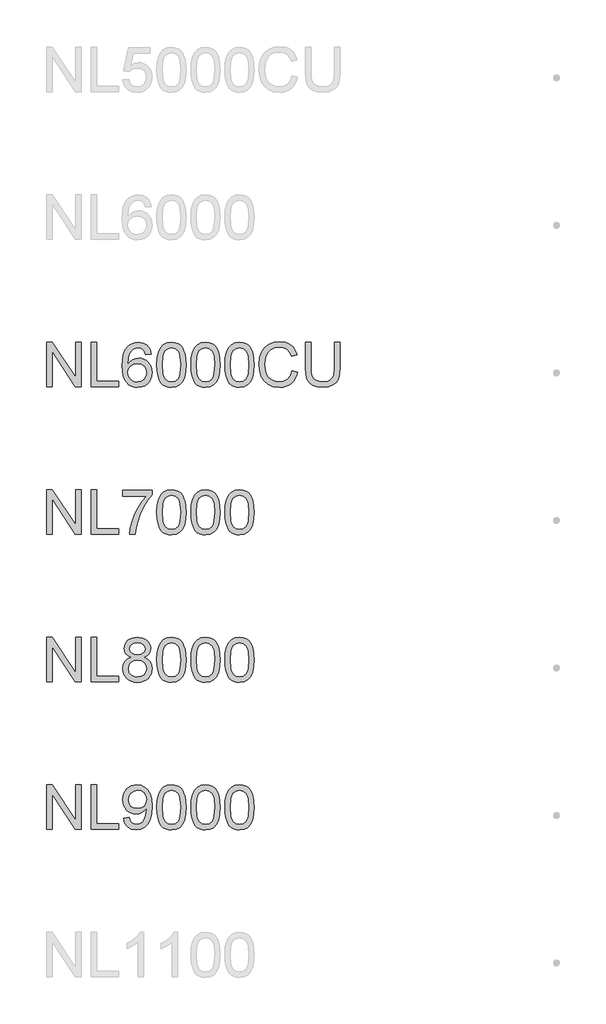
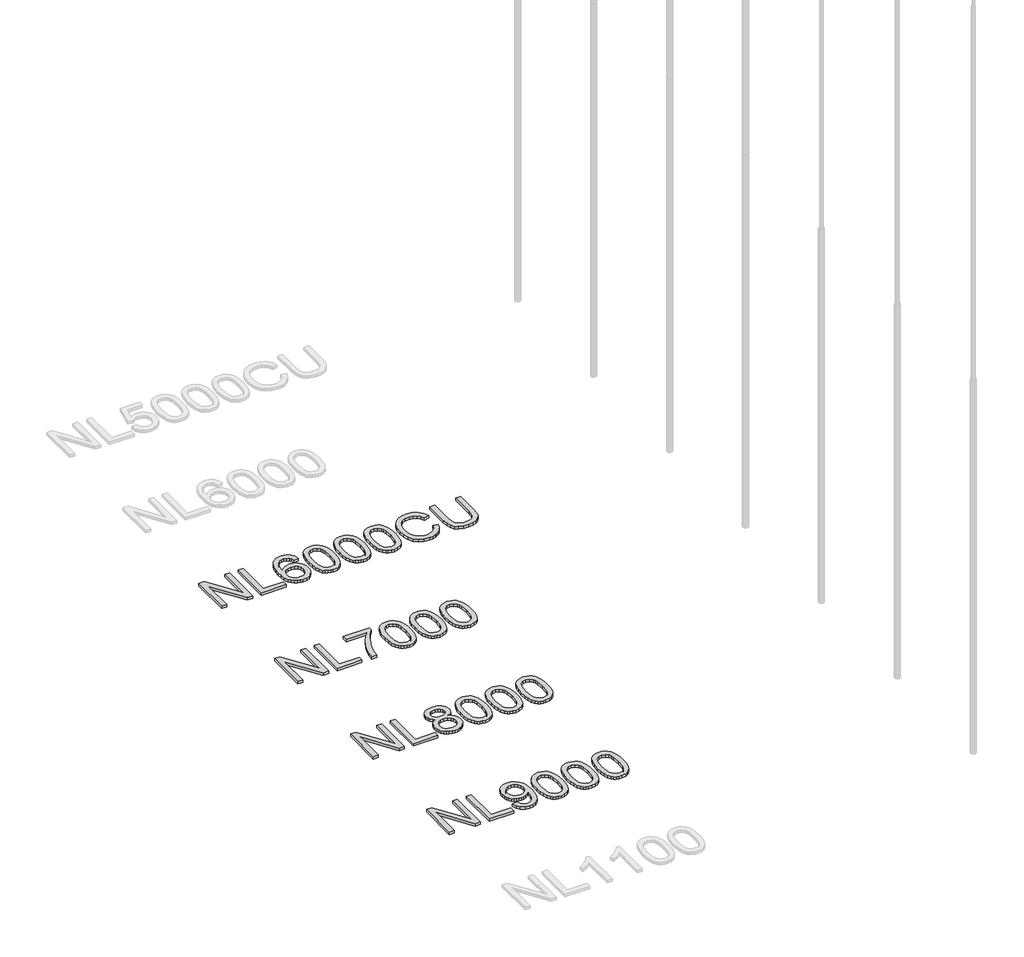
# One storey, part 37 of 124: 4 proxies.
"""IFC4 building model written with IfcOpenShell, lengths in millimetres."""

from ifc_helpers import new_model, si_unit, origin, origin_with_axes, place, context, project, spatial, polyline, outline, extrude, element, save

model = new_model("IFC4")

# Units and contexts
model_context = context("Model", 3, world=origin())
ifc_project = project(units=[si_unit("LENGTHUNIT", "METRE", prefix="MILLI")], contexts=[model_context])

# Site, building, storey
site = spatial("IfcSite", under=ifc_project)
building = spatial("IfcBuilding", under=site)
storey = spatial("IfcBuildingStorey", under=building, Name="Этаж 01", Elevation=0.0)

# Proxies
placement = place(None, origin())
element("IfcBuildingElementProxy", 1, Name="300", ObjectType="300", at=placement, inside=storey, context=model_context, shape_type="SweptSolid", body=[
    extrude(outline(polyline([(1299.8220677, -73074.498362), (1299.8220677, -72773.1294316), (1340.1419344, -72773.1294316), (1497.5954283, -73011.8848464), (1497.5954283, -72773.1294316), (1535.2665446, -72773.1294316), (1535.2665446, -73074.498362), (1494.9466779, -73074.498362), (1337.493184, -72835.6693707), (1337.493184, -73074.498362), (1299.8220677, -73074.498362)])), origin_with_axes(), (0.0, 0.0, 1.0), 20.0),
    extrude(outline(polyline([(1601.1909981, -73074.498362), (1601.1909981, -72773.1294316), (1638.8621144, -72773.1294316), (1638.8621144, -73036.8272457), (1789.5465797, -73036.8272457), (1789.5465797, -73074.498362), (1601.1909981, -73074.498362)])), origin_with_axes(), (0.0, 0.0, 1.0), 20.0),
    extrude(outline(polyline([(2010.864388, -72853.1805537), (1973.1932717, -72857.8894432), (1967.1232187, -72839.219432), (1958.9194503, -72826.4723209), (1941.8313316, -72814.7184911), (1921.1747575, -72810.8005479), (1903.6635746, -72813.0814162), (1887.1824612, -72819.9240213), (1873.0282014, -72834.3357985), (1861.4675097, -72854.1738351), (1853.6592144, -72882.2340343), (1850.7621437, -72921.3122992), (1865.8728966, -72903.6815546), (1883.9818878, -72891.2563402), (1904.0774418, -72883.8895033), (1925.1478831, -72881.4338909), (1943.2476773, -72883.1123525), (1959.9495198, -72888.1477373), (1975.2534108, -72896.5400454), (1989.1593503, -72908.2892766), (2000.7154434, -72922.6964552), (2008.9697957, -72939.0626055), (2013.9224071, -72957.3877274), (2015.5732775, -72977.6718209), (2012.4646747, -73004.6467682), (2003.1388661, -73029.6535468), (1988.368404, -73050.8619438), (1968.9258405, -73066.4417463), (1945.6940925, -73076.0158752), (1919.5560768, -73079.2072515), (1897.0991802, -73077.0919301), (1876.817386, -73070.7459657), (1858.710694, -73060.1693583), (1842.7791044, -73045.362108), (1829.7905707, -73025.6988153), (1820.5130466, -73000.554081), (1814.9465322, -72969.9279049), (1813.0910274, -72933.820287), (1815.1511665, -72893.339472), (1821.3315841, -72858.7907541), (1831.6322799, -72830.1741334), (1846.0532541, -72807.4896099), (1861.6836404, -72792.4570319), (1879.8064272, -72781.7194761), (1900.4216145, -72775.2769427), (1923.5292023, -72773.1294316), (1956.5833996, -72778.4453264), (1983.0525091, -72794.3930109), (2001.5937617, -72819.7216862), (2010.864388, -72853.1805537)]), holes=[polyline([(1850.7621437, -72977.0832097), (1852.9418445, -72993.7758552), (1859.480947, -73009.7143427), (1869.63449, -73023.417947), (1882.6575127, -73033.4059431), (1898.3752709, -73039.5035872), (1916.6130208, -73041.5361352), (1941.4726466, -73037.3238864), (1961.0163776, -73024.6871399), (1973.6807153, -73004.8215121), (1977.9021612, -72978.9226197), (1973.7358976, -72954.0629938), (1961.2371068, -72935.107874), (1941.362282, -72923.1057239), (1915.0679164, -72919.1050072), (1890.2450788, -72923.1057239), (1869.4873372, -72935.107874), (1855.4434421, -72953.6031413), (1850.7621437, -72977.0832097)])]), origin_with_axes(), (0.0, 0.0, 1.0), 20.0),
    extrude(outline(polyline([(2048.5355043, -72926.2419179), (2051.3038163, -72878.0033913), (2059.6087523, -72839.5321317), (2073.367539, -72810.2395278), (2092.4974027, -72789.5369685), (2117.1362993, -72777.2313158), (2147.4221846, -72773.1294316), (2170.6355385, -72775.5574527), (2191.4208712, -72782.8415162), (2208.8032955, -72794.6965135), (2221.807924, -72810.8373361), (2231.6303733, -72831.1260281), (2239.4662598, -72855.4246339), (2244.5982136, -72886.2807362), (2246.3088649, -72926.2419179), (2243.568144, -72974.2045331), (2235.3459814, -73012.5838222), (2221.6699683, -73041.9040172), (2202.5676957, -73062.68935), (2177.8736167, -73075.0777761), (2147.4221846, -73079.2072515), (2126.6736401, -73077.4138268), (2108.2795403, -73072.0335526), (2092.2398853, -73063.066429), (2078.5546751, -73050.5124559), (2065.4212879, -73027.8187353), (2056.040297, -72999.5424055), (2050.4117025, -72965.6834664), (2048.5355043, -72926.2419179)]), holes=[polyline([(2086.2066206, -72926.1683415), (2090.6212045, -72985.4249339), (2096.1394345, -73005.6929326), (2103.8649564, -73019.7207329), (2123.5834313, -73036.0822847), (2147.4221846, -73041.5361352), (2171.2609379, -73036.0638906), (2190.9794128, -73019.6471565), (2198.7049347, -73005.5963636), (2204.2231646, -72985.3329634), (2208.6377486, -72926.1683415), (2204.3703174, -72868.2453214), (2199.0360285, -72848.0440013), (2191.568024, -72833.682808), (2171.8863373, -72816.5211129), (2146.9807262, -72810.8005479), (2123.3994903, -72815.8405312), (2104.4535675, -72830.9604812), (2096.4705282, -72846.595466), (2090.7683573, -72867.6751043), (2086.2066206, -72926.1683415)])]), origin_with_axes(), (0.0, 0.0, 1.0), 20.0),
    extrude(outline(polyline([(2279.2710917, -72926.2419179), (2282.0394037, -72878.0033913), (2290.3443397, -72839.5321317), (2304.1031263, -72810.2395278), (2323.2329901, -72789.5369685), (2347.8718867, -72777.2313158), (2378.157772, -72773.1294316), (2401.3711259, -72775.5574527), (2422.1564586, -72782.8415162), (2439.5388829, -72794.6965135), (2452.5435114, -72810.8373361), (2462.3659607, -72831.1260281), (2470.2018471, -72855.4246339), (2475.333801, -72886.2807362), (2477.0444523, -72926.2419179), (2474.3037314, -72974.2045331), (2466.0815688, -73012.5838222), (2452.4055556, -73041.9040172), (2433.303283, -73062.68935), (2408.6092041, -73075.0777761), (2378.157772, -73079.2072515), (2357.4092274, -73077.4138268), (2339.0151277, -73072.0335526), (2322.9754727, -73063.066429), (2309.2902625, -73050.5124559), (2296.1568752, -73027.8187353), (2286.7758844, -72999.5424055), (2281.1472898, -72965.6834664), (2279.2710917, -72926.2419179)]), holes=[polyline([(2316.942208, -72926.1683415), (2321.3567919, -72985.4249339), (2326.8750218, -73005.6929326), (2334.6005437, -73019.7207329), (2354.3190187, -73036.0822847), (2378.157772, -73041.5361352), (2401.9965252, -73036.0638906), (2421.7150002, -73019.6471565), (2429.4405221, -73005.5963636), (2434.958752, -72985.3329634), (2439.373336, -72926.1683415), (2435.1059048, -72868.2453214), (2429.7716159, -72848.0440013), (2422.3036114, -72833.682808), (2402.6219246, -72816.5211129), (2377.7163136, -72810.8005479), (2354.1350777, -72815.8405312), (2335.1891549, -72830.9604812), (2327.2061156, -72846.595466), (2321.5039447, -72867.6751043), (2316.942208, -72926.1683415)])]), origin_with_axes(), (0.0, 0.0, 1.0), 20.0),
    extrude(outline(polyline([(2510.006679, -72926.2419179), (2512.774991, -72878.0033913), (2521.0799271, -72839.5321317), (2534.8387137, -72810.2395278), (2553.9685775, -72789.5369685), (2578.6074741, -72777.2313158), (2608.8933593, -72773.1294316), (2632.1067132, -72775.5574527), (2652.892046, -72782.8415162), (2670.2744702, -72794.6965135), (2683.2790988, -72810.8373361), (2693.101548, -72831.1260281), (2700.9374345, -72855.4246339), (2706.0693884, -72886.2807362), (2707.7800396, -72926.2419179), (2705.0393188, -72974.2045331), (2696.8171562, -73012.5838222), (2683.141143, -73041.9040172), (2664.0388704, -73062.68935), (2639.3447915, -73075.0777761), (2608.8933593, -73079.2072515), (2588.1448148, -73077.4138268), (2569.750715, -73072.0335526), (2553.7110601, -73063.066429), (2540.0258498, -73050.5124559), (2526.8924626, -73027.8187353), (2517.5114717, -72999.5424055), (2511.8828772, -72965.6834664), (2510.006679, -72926.2419179)]), holes=[polyline([(2547.6777953, -72926.1683415), (2552.0923793, -72985.4249339), (2557.6106092, -73005.6929326), (2565.3361311, -73019.7207329), (2585.054606, -73036.0822847), (2608.8933593, -73041.5361352), (2632.7321126, -73036.0638906), (2652.4505876, -73019.6471565), (2660.1761095, -73005.5963636), (2665.6943394, -72985.3329634), (2670.1089233, -72926.1683415), (2665.8414922, -72868.2453214), (2660.5072033, -72848.0440013), (2653.0391988, -72833.682808), (2633.357512, -72816.5211129), (2608.4519009, -72810.8005479), (2584.870665, -72815.8405312), (2565.9247423, -72830.9604812), (2557.941703, -72846.595466), (2552.2395321, -72867.6751043), (2547.6777953, -72926.1683415)])]), origin_with_axes(), (0.0, 0.0, 1.0), 20.0),
    extrude(outline(polyline([(2966.7689642, -72967.371125), (3004.4400805, -72977.0832097), (2996.9858716, -73000.510395), (2987.0576563, -73020.9807288), (2974.6554345, -73038.494211), (2959.7792063, -73053.0508417), (2942.7646641, -73064.494271), (2923.9475, -73072.6681491), (2903.3277142, -73077.5724759), (2880.9053066, -73079.2072515), (2837.2101226, -73074.2592387), (2802.5096534, -73059.4152002), (2775.9117851, -73035.1901708), (2756.524404, -73002.0991854), (2744.6878008, -72963.1956644), (2740.7422664, -72921.5330284), (2745.2028356, -72877.5895241), (2758.5845432, -72839.6424963), (2780.1884133, -72808.8967585), (2809.3154703, -72786.5571244), (2843.8595897, -72772.9546876), (2881.714647, -72768.420542), (2923.018598, -72774.2882598), (2940.9873342, -72781.6229071), (2957.1672442, -72791.8914133), (2971.2916135, -72804.8224654), (2983.0937278, -72820.1447505), (2999.731191, -72857.9630196), (2962.0600747, -72866.9393403), (2949.0002639, -72839.4677523), (2931.1579871, -72820.6229971), (2908.3125152, -72809.724493), (2880.243119, -72806.0916583), (2847.8878975, -72810.1199662), (2821.3084233, -72822.2048897), (2801.139293, -72841.0772361), (2788.0151028, -72865.4678123), (2780.8138127, -72893.0405679), (2778.4133827, -72921.459452), (2781.2552711, -72956.2610888), (2789.7809364, -72986.353836), (2804.3122752, -73010.5880624), (2825.1711843, -73027.8141368), (2850.1779629, -73038.1056356), (2877.1529102, -73041.5361352), (2908.5976238, -73036.8640339), (2934.8000189, -73022.8477299), (2954.5828731, -72999.634376), (2966.7689642, -72967.371125)])), origin_with_axes(), (0.0, 0.0, 1.0), 20.0),
    extrude(outline(polyline([(3254.0112261, -72773.1294316), (3291.6823424, -72773.1294316), (3291.6823424, -72946.9904625), (3289.1255625, -72987.7058023), (3281.4552229, -73019.0585453), (3267.1262192, -73043.2467865), (3244.593447, -73062.4686208), (3213.801724, -73075.0225938), (3174.6958679, -73079.2072515), (3136.4453375, -73075.5652198), (3105.8651466, -73064.6391245), (3082.9460983, -73046.8060448), (3067.6789955, -73022.4430597), (3059.098148, -72989.7659415), (3056.2378655, -72946.9904625), (3056.2378655, -72773.1294316), (3093.9089818, -72773.1294316), (3093.9089818, -72945.6660873), (3095.7667858, -72979.5204279), (3101.3401981, -73003.0924667), (3111.4385588, -73019.4172303), (3126.8712085, -73031.529745), (3146.9943537, -73039.0345377), (3171.1642008, -73041.5361352), (3209.4791106, -73036.5881224), (3223.8219098, -73030.4031064), (3234.9549387, -73021.7440839), (3243.2920644, -73009.5671899), (3249.2471542, -72992.8285591), (3254.0112261, -72945.6660873), (3254.0112261, -72773.1294316)])), origin_with_axes(), (0.0, 0.0, 1.0), 20.0),
])
element("IfcBuildingElementProxy", 2, Name="300", ObjectType="300", at=placement, inside=storey, context=model_context, shape_type="SweptSolid", body=[
    extrude(outline(polyline([(1299.8220677, -74074.498362), (1299.8220677, -73773.1294316), (1340.1419344, -73773.1294316), (1497.5954283, -74011.8848464), (1497.5954283, -73773.1294316), (1535.2665446, -73773.1294316), (1535.2665446, -74074.498362), (1494.9466779, -74074.498362), (1337.493184, -73835.6693707), (1337.493184, -74074.498362), (1299.8220677, -74074.498362)])), origin_with_axes(), (0.0, 0.0, 1.0), 20.0),
    extrude(outline(polyline([(1601.1909981, -74074.498362), (1601.1909981, -73773.1294316), (1638.8621144, -73773.1294316), (1638.8621144, -74036.8272457), (1789.5465797, -74036.8272457), (1789.5465797, -74074.498362), (1601.1909981, -74074.498362)])), origin_with_axes(), (0.0, 0.0, 1.0), 20.0),
    extrude(outline(polyline([(1817.7999169, -73815.5094374), (1817.7999169, -73777.8383211), (2015.5732775, -73777.8383211), (2015.5732775, -73808.2989503), (1987.3843196, -73843.9743068), (1959.4712732, -73889.3433538), (1934.8507707, -73940.267419), (1916.5394444, -73992.6078299), (1907.5631237, -74031.7688683), (1902.5599286, -74074.498362), (1864.8888123, -74074.498362), (1868.9631054, -74035.6684174), (1879.8616095, -73989.5176211), (1897.290019, -73940.5985128), (1920.9540284, -73893.4636322), (1948.5819662, -73850.8537001), (1977.9021612, -73815.5094374), (1817.7999169, -73815.5094374)])), origin_with_axes(), (0.0, 0.0, 1.0), 20.0),
    extrude(outline(polyline([(2048.5355043, -73926.2419179), (2051.3038163, -73878.0033913), (2059.6087523, -73839.5321317), (2073.367539, -73810.2395278), (2092.4974027, -73789.5369685), (2117.1362993, -73777.2313158), (2147.4221846, -73773.1294316), (2170.6355385, -73775.5574527), (2191.4208712, -73782.8415162), (2208.8032955, -73794.6965135), (2221.807924, -73810.8373361), (2231.6303733, -73831.1260281), (2239.4662598, -73855.4246339), (2244.5982136, -73886.2807362), (2246.3088649, -73926.2419179), (2243.568144, -73974.2045331), (2235.3459814, -74012.5838222), (2221.6699683, -74041.9040172), (2202.5676957, -74062.68935), (2177.8736167, -74075.0777761), (2147.4221846, -74079.2072515), (2126.6736401, -74077.4138268), (2108.2795403, -74072.0335526), (2092.2398853, -74063.066429), (2078.5546751, -74050.5124559), (2065.4212879, -74027.8187353), (2056.040297, -73999.5424055), (2050.4117025, -73965.6834664), (2048.5355043, -73926.2419179)]), holes=[polyline([(2086.2066206, -73926.1683415), (2090.6212045, -73985.4249339), (2096.1394345, -74005.6929326), (2103.8649564, -74019.7207329), (2123.5834313, -74036.0822847), (2147.4221846, -74041.5361352), (2171.2609379, -74036.0638906), (2190.9794128, -74019.6471565), (2198.7049347, -74005.5963636), (2204.2231646, -73985.3329634), (2208.6377486, -73926.1683415), (2204.3703174, -73868.2453214), (2199.0360285, -73848.0440013), (2191.568024, -73833.682808), (2171.8863373, -73816.5211129), (2146.9807262, -73810.8005479), (2123.3994903, -73815.8405312), (2104.4535675, -73830.9604812), (2096.4705282, -73846.595466), (2090.7683573, -73867.6751043), (2086.2066206, -73926.1683415)])]), origin_with_axes(), (0.0, 0.0, 1.0), 20.0),
    extrude(outline(polyline([(2279.2710917, -73926.2419179), (2282.0394037, -73878.0033913), (2290.3443397, -73839.5321317), (2304.1031263, -73810.2395278), (2323.2329901, -73789.5369685), (2347.8718867, -73777.2313158), (2378.157772, -73773.1294316), (2401.3711259, -73775.5574527), (2422.1564586, -73782.8415162), (2439.5388829, -73794.6965135), (2452.5435114, -73810.8373361), (2462.3659607, -73831.1260281), (2470.2018471, -73855.4246339), (2475.333801, -73886.2807362), (2477.0444523, -73926.2419179), (2474.3037314, -73974.2045331), (2466.0815688, -74012.5838222), (2452.4055556, -74041.9040172), (2433.303283, -74062.68935), (2408.6092041, -74075.0777761), (2378.157772, -74079.2072515), (2357.4092274, -74077.4138268), (2339.0151277, -74072.0335526), (2322.9754727, -74063.066429), (2309.2902625, -74050.5124559), (2296.1568752, -74027.8187353), (2286.7758844, -73999.5424055), (2281.1472898, -73965.6834664), (2279.2710917, -73926.2419179)]), holes=[polyline([(2316.942208, -73926.1683415), (2321.3567919, -73985.4249339), (2326.8750218, -74005.6929326), (2334.6005437, -74019.7207329), (2354.3190187, -74036.0822847), (2378.157772, -74041.5361352), (2401.9965252, -74036.0638906), (2421.7150002, -74019.6471565), (2429.4405221, -74005.5963636), (2434.958752, -73985.3329634), (2439.373336, -73926.1683415), (2435.1059048, -73868.2453214), (2429.7716159, -73848.0440013), (2422.3036114, -73833.682808), (2402.6219246, -73816.5211129), (2377.7163136, -73810.8005479), (2354.1350777, -73815.8405312), (2335.1891549, -73830.9604812), (2327.2061156, -73846.595466), (2321.5039447, -73867.6751043), (2316.942208, -73926.1683415)])]), origin_with_axes(), (0.0, 0.0, 1.0), 20.0),
    extrude(outline(polyline([(2510.006679, -73926.2419179), (2512.774991, -73878.0033913), (2521.0799271, -73839.5321317), (2534.8387137, -73810.2395278), (2553.9685775, -73789.5369685), (2578.6074741, -73777.2313158), (2608.8933593, -73773.1294316), (2632.1067132, -73775.5574527), (2652.892046, -73782.8415162), (2670.2744702, -73794.6965135), (2683.2790988, -73810.8373361), (2693.101548, -73831.1260281), (2700.9374345, -73855.4246339), (2706.0693884, -73886.2807362), (2707.7800396, -73926.2419179), (2705.0393188, -73974.2045331), (2696.8171562, -74012.5838222), (2683.141143, -74041.9040172), (2664.0388704, -74062.68935), (2639.3447915, -74075.0777761), (2608.8933593, -74079.2072515), (2588.1448148, -74077.4138268), (2569.750715, -74072.0335526), (2553.7110601, -74063.066429), (2540.0258498, -74050.5124559), (2526.8924626, -74027.8187353), (2517.5114717, -73999.5424055), (2511.8828772, -73965.6834664), (2510.006679, -73926.2419179)]), holes=[polyline([(2547.6777953, -73926.1683415), (2552.0923793, -73985.4249339), (2557.6106092, -74005.6929326), (2565.3361311, -74019.7207329), (2585.054606, -74036.0822847), (2608.8933593, -74041.5361352), (2632.7321126, -74036.0638906), (2652.4505876, -74019.6471565), (2660.1761095, -74005.5963636), (2665.6943394, -73985.3329634), (2670.1089233, -73926.1683415), (2665.8414922, -73868.2453214), (2660.5072033, -73848.0440013), (2653.0391988, -73833.682808), (2633.357512, -73816.5211129), (2608.4519009, -73810.8005479), (2584.870665, -73815.8405312), (2565.9247423, -73830.9604812), (2557.941703, -73846.595466), (2552.2395321, -73867.6751043), (2547.6777953, -73926.1683415)])]), origin_with_axes(), (0.0, 0.0, 1.0), 20.0),
])
element("IfcBuildingElementProxy", 3, Name="300", ObjectType="300", at=placement, inside=storey, context=model_context, shape_type="SweptSolid", body=[
    extrude(outline(polyline([(1299.8220677, -75074.498362), (1299.8220677, -74773.1294316), (1340.1419344, -74773.1294316), (1497.5954283, -75011.8848464), (1497.5954283, -74773.1294316), (1535.2665446, -74773.1294316), (1535.2665446, -75074.498362), (1494.9466779, -75074.498362), (1337.493184, -74835.6693707), (1337.493184, -75074.498362), (1299.8220677, -75074.498362)])), origin_with_axes(), (0.0, 0.0, 1.0), 20.0),
    extrude(outline(polyline([(1601.1909981, -75074.498362), (1601.1909981, -74773.1294316), (1638.8621144, -74773.1294316), (1638.8621144, -75036.8272457), (1789.5465797, -75036.8272457), (1789.5465797, -75074.498362), (1601.1909981, -75074.498362)])), origin_with_axes(), (0.0, 0.0, 1.0), 20.0),
    extrude(outline(polyline([(1872.6879106, -74908.5100058), (1852.5187802, -74898.5771919), (1838.3645204, -74885.1127109), (1830.0044021, -74868.3924742), (1827.217696, -74848.6923934), (1828.7352092, -74833.3287215), (1833.2877489, -74819.2434396), (1840.8753151, -74806.4365477), (1851.4979077, -74794.9080457), (1864.6450905, -74785.379902), (1879.8064272, -74778.5740851), (1916.1715624, -74773.1294316), (1952.7574268, -74778.7028438), (1968.0843105, -74785.6696091), (1981.4338284, -74795.4230805), (1992.249559, -74807.1769102), (1999.9750809, -74820.1447505), (2004.6103941, -74834.3266015), (2006.1554984, -74849.7224629), (2003.4055805, -74868.7879473), (1995.1558268, -74885.2230755), (1981.3142667, -74898.6047831), (1961.7889298, -74908.5100058), (1984.9746926, -74920.4569736), (2001.8512791, -74938.05093), (2012.1427779, -74960.4457464), (2015.5732775, -74986.7952944), (2013.8718233, -75005.5848673), (2008.7674606, -75022.8109417), (2000.2601895, -75038.4735176), (1988.3500099, -75052.5725951), (1973.6623212, -75064.2252573), (1956.8225229, -75072.5485874), (1937.8306149, -75077.5425855), (1916.6865972, -75079.2072515), (1895.5425795, -75077.5356877), (1876.5506715, -75072.5209963), (1859.7108732, -75064.1631772), (1845.0231845, -75052.4622305), (1833.113005, -75038.2642847), (1824.6057338, -75022.4154685), (1819.5013711, -75004.9157819), (1817.7999169, -74985.7652248), (1821.3683723, -74958.3948043), (1832.0737383, -74935.8804262), (1849.3641921, -74918.9946426), (1872.6879106, -74908.5100058)]), holes=[polyline([(1864.8888123, -74849.7960393), (1868.2273414, -74866.2403645), (1878.2429287, -74879.3737518), (1894.6412686, -74887.9821904), (1917.1280556, -74890.85167), (1939.0906107, -74888.0005845), (1955.2406303, -74879.4473282), (1965.1734442, -74866.7553993), (1968.4843821, -74851.4882965), (1965.0630796, -74835.6417796), (1954.7991719, -74822.5359835), (1938.4284231, -74813.7344068), (1916.6865972, -74810.8005479), (1894.8068155, -74813.6700274), (1878.4636579, -74822.2784661), (1868.2825237, -74834.8968185), (1864.8888123, -74849.7960393)]), polyline([(1855.4710332, -74984.4408496), (1861.7618153, -75012.8045514), (1870.4714216, -75024.9722484), (1884.018676, -75034.0313425), (1900.242272, -75039.6599371), (1916.9809028, -75041.5361352), (1942.6222779, -75037.5906008), (1961.8625062, -75025.7539976), (1973.8922475, -75007.8289474), (1977.9021612, -74985.618072), (1973.7634888, -74963.0301175), (1961.3474714, -74944.7095941), (1941.6657847, -74932.5694883), (1915.730104, -74928.5227863), (1890.4474139, -74932.514306), (1871.4003236, -74944.4888649), (1859.4533558, -74962.4599004), (1855.4710332, -74984.4408496)])]), origin_with_axes(), (0.0, 0.0, 1.0), 20.0),
    extrude(outline(polyline([(2048.5355043, -74926.2419179), (2051.3038163, -74878.0033913), (2059.6087523, -74839.5321317), (2073.367539, -74810.2395278), (2092.4974027, -74789.5369685), (2117.1362993, -74777.2313158), (2147.4221846, -74773.1294316), (2170.6355385, -74775.5574527), (2191.4208712, -74782.8415162), (2208.8032955, -74794.6965135), (2221.807924, -74810.8373361), (2231.6303733, -74831.1260281), (2239.4662598, -74855.4246339), (2244.5982136, -74886.2807362), (2246.3088649, -74926.2419179), (2243.568144, -74974.2045331), (2235.3459814, -75012.5838222), (2221.6699683, -75041.9040172), (2202.5676957, -75062.68935), (2177.8736167, -75075.0777761), (2147.4221846, -75079.2072515), (2126.6736401, -75077.4138268), (2108.2795403, -75072.0335526), (2092.2398853, -75063.066429), (2078.5546751, -75050.5124559), (2065.4212879, -75027.8187353), (2056.040297, -74999.5424055), (2050.4117025, -74965.6834664), (2048.5355043, -74926.2419179)]), holes=[polyline([(2086.2066206, -74926.1683415), (2090.6212045, -74985.4249339), (2096.1394345, -75005.6929326), (2103.8649564, -75019.7207329), (2123.5834313, -75036.0822847), (2147.4221846, -75041.5361352), (2171.2609379, -75036.0638906), (2190.9794128, -75019.6471565), (2198.7049347, -75005.5963636), (2204.2231646, -74985.3329634), (2208.6377486, -74926.1683415), (2204.3703174, -74868.2453214), (2199.0360285, -74848.0440013), (2191.568024, -74833.682808), (2171.8863373, -74816.5211129), (2146.9807262, -74810.8005479), (2123.3994903, -74815.8405312), (2104.4535675, -74830.9604812), (2096.4705282, -74846.595466), (2090.7683573, -74867.6751043), (2086.2066206, -74926.1683415)])]), origin_with_axes(), (0.0, 0.0, 1.0), 20.0),
    extrude(outline(polyline([(2279.2710917, -74926.2419179), (2282.0394037, -74878.0033913), (2290.3443397, -74839.5321317), (2304.1031263, -74810.2395278), (2323.2329901, -74789.5369685), (2347.8718867, -74777.2313158), (2378.157772, -74773.1294316), (2401.3711259, -74775.5574527), (2422.1564586, -74782.8415162), (2439.5388829, -74794.6965135), (2452.5435114, -74810.8373361), (2462.3659607, -74831.1260281), (2470.2018471, -74855.4246339), (2475.333801, -74886.2807362), (2477.0444523, -74926.2419179), (2474.3037314, -74974.2045331), (2466.0815688, -75012.5838222), (2452.4055556, -75041.9040172), (2433.303283, -75062.68935), (2408.6092041, -75075.0777761), (2378.157772, -75079.2072515), (2357.4092274, -75077.4138268), (2339.0151277, -75072.0335526), (2322.9754727, -75063.066429), (2309.2902625, -75050.5124559), (2296.1568752, -75027.8187353), (2286.7758844, -74999.5424055), (2281.1472898, -74965.6834664), (2279.2710917, -74926.2419179)]), holes=[polyline([(2316.942208, -74926.1683415), (2321.3567919, -74985.4249339), (2326.8750218, -75005.6929326), (2334.6005437, -75019.7207329), (2354.3190187, -75036.0822847), (2378.157772, -75041.5361352), (2401.9965252, -75036.0638906), (2421.7150002, -75019.6471565), (2429.4405221, -75005.5963636), (2434.958752, -74985.3329634), (2439.373336, -74926.1683415), (2435.1059048, -74868.2453214), (2429.7716159, -74848.0440013), (2422.3036114, -74833.682808), (2402.6219246, -74816.5211129), (2377.7163136, -74810.8005479), (2354.1350777, -74815.8405312), (2335.1891549, -74830.9604812), (2327.2061156, -74846.595466), (2321.5039447, -74867.6751043), (2316.942208, -74926.1683415)])]), origin_with_axes(), (0.0, 0.0, 1.0), 20.0),
    extrude(outline(polyline([(2510.006679, -74926.2419179), (2512.774991, -74878.0033913), (2521.0799271, -74839.5321317), (2534.8387137, -74810.2395278), (2553.9685775, -74789.5369685), (2578.6074741, -74777.2313158), (2608.8933593, -74773.1294316), (2632.1067132, -74775.5574527), (2652.892046, -74782.8415162), (2670.2744702, -74794.6965135), (2683.2790988, -74810.8373361), (2693.101548, -74831.1260281), (2700.9374345, -74855.4246339), (2706.0693884, -74886.2807362), (2707.7800396, -74926.2419179), (2705.0393188, -74974.2045331), (2696.8171562, -75012.5838222), (2683.141143, -75041.9040172), (2664.0388704, -75062.68935), (2639.3447915, -75075.0777761), (2608.8933593, -75079.2072515), (2588.1448148, -75077.4138268), (2569.750715, -75072.0335526), (2553.7110601, -75063.066429), (2540.0258498, -75050.5124559), (2526.8924626, -75027.8187353), (2517.5114717, -74999.5424055), (2511.8828772, -74965.6834664), (2510.006679, -74926.2419179)]), holes=[polyline([(2547.6777953, -74926.1683415), (2552.0923793, -74985.4249339), (2557.6106092, -75005.6929326), (2565.3361311, -75019.7207329), (2585.054606, -75036.0822847), (2608.8933593, -75041.5361352), (2632.7321126, -75036.0638906), (2652.4505876, -75019.6471565), (2660.1761095, -75005.5963636), (2665.6943394, -74985.3329634), (2670.1089233, -74926.1683415), (2665.8414922, -74868.2453214), (2660.5072033, -74848.0440013), (2653.0391988, -74833.682808), (2633.357512, -74816.5211129), (2608.4519009, -74810.8005479), (2584.870665, -74815.8405312), (2565.9247423, -74830.9604812), (2557.941703, -74846.595466), (2552.2395321, -74867.6751043), (2547.6777953, -74926.1683415)])]), origin_with_axes(), (0.0, 0.0, 1.0), 20.0),
])
element("IfcBuildingElementProxy", 4, Name="300", ObjectType="300", at=placement, inside=storey, context=model_context, shape_type="SweptSolid", body=[
    extrude(outline(polyline([(1299.8220677, -76074.498362), (1299.8220677, -75773.1294316), (1340.1419344, -75773.1294316), (1497.5954283, -76011.8848464), (1497.5954283, -75773.1294316), (1535.2665446, -75773.1294316), (1535.2665446, -76074.498362), (1494.9466779, -76074.498362), (1337.493184, -75835.6693707), (1337.493184, -76074.498362), (1299.8220677, -76074.498362)])), origin_with_axes(), (0.0, 0.0, 1.0), 20.0),
    extrude(outline(polyline([(1601.1909981, -76074.498362), (1601.1909981, -75773.1294316), (1638.8621144, -75773.1294316), (1638.8621144, -76036.8272457), (1789.5465797, -76036.8272457), (1789.5465797, -76074.498362), (1601.1909981, -76074.498362)])), origin_with_axes(), (0.0, 0.0, 1.0), 20.0),
    extrude(outline(polyline([(1822.5088064, -75999.1561294), (1860.1799227, -75994.4472399), (1866.6178577, -76015.8303808), (1877.1024945, -76030.3893108), (1891.3763159, -76038.7494291), (1909.1818045, -76041.5361352), (1925.1570801, -76039.7427105), (1939.6792219, -76034.3624363), (1951.7457513, -76025.9839239), (1960.35419, -76015.1957844), (1972.6782369, -75982.4542868), (1978.1228904, -75938.7499058), (1977.9021612, -75931.3922659), (1964.8515474, -75947.3215563), (1947.7726258, -75959.9399087), (1927.897801, -75968.1620713), (1906.4594777, -75970.9027922), (1888.5643179, -75969.2289291), (1872.1084964, -75964.2073398), (1857.0920133, -75955.8380245), (1843.5148684, -75944.1209829), (1832.2645771, -75929.667819), (1824.2286548, -75913.0901366), (1819.4071014, -75894.3879357), (1817.7999169, -75873.5612162), (1819.4852763, -75852.0401195), (1824.5413545, -75832.7263148), (1832.9681514, -75815.619802), (1844.7656671, -75800.7205812), (1859.1015686, -75788.6494532), (1875.1435229, -75780.027219), (1892.8915299, -75774.8538784), (1912.3455897, -75773.1294316), (1940.442577, -75777.0657689), (1966.0195728, -75788.8747809), (1987.4119108, -75807.9678565), (2002.9549251, -75833.7563844), (2012.4186894, -75869.4041497), (2015.5732775, -75918.0749377), (2012.4278865, -75969.6795845), (2002.9917133, -76009.5671899), (1987.3475314, -76039.5403754), (1965.5781144, -76061.401763), (1938.6215612, -76074.7558794), (1907.4159709, -76079.2072515), (1875.2079023, -76073.9557361), (1849.5113449, -76058.2011896), (1831.5403094, -76032.9368936), (1822.5088064, -75999.1561294)]), holes=[polyline([(1977.9021612, -75872.6782994), (1973.8370652, -75847.147289), (1961.641777, -75827.5023904), (1942.7142484, -75814.9760085), (1918.4524308, -75810.8005479), (1893.2893023, -75815.2979053), (1873.129369, -75828.7899774), (1859.8856172, -75849.4373544), (1855.4710332, -75875.4006262), (1859.6464939, -75898.6783595), (1872.1728758, -75917.1552327), (1891.8361684, -75929.2125651), (1917.4223612, -75933.2316759), (1941.4910407, -75929.2125651), (1960.8692248, -75917.1552327), (1973.6439271, -75897.9977778), (1977.9021612, -75872.6782994)])]), origin_with_axes(), (0.0, 0.0, 1.0), 20.0),
    extrude(outline(polyline([(2048.5355043, -75926.2419179), (2051.3038163, -75878.0033913), (2059.6087523, -75839.5321317), (2073.367539, -75810.2395278), (2092.4974027, -75789.5369685), (2117.1362993, -75777.2313158), (2147.4221846, -75773.1294316), (2170.6355385, -75775.5574527), (2191.4208712, -75782.8415162), (2208.8032955, -75794.6965135), (2221.807924, -75810.8373361), (2231.6303733, -75831.1260281), (2239.4662598, -75855.4246339), (2244.5982136, -75886.2807362), (2246.3088649, -75926.2419179), (2243.568144, -75974.2045331), (2235.3459814, -76012.5838222), (2221.6699683, -76041.9040172), (2202.5676957, -76062.68935), (2177.8736167, -76075.0777761), (2147.4221846, -76079.2072515), (2126.6736401, -76077.4138268), (2108.2795403, -76072.0335526), (2092.2398853, -76063.066429), (2078.5546751, -76050.5124559), (2065.4212879, -76027.8187353), (2056.040297, -75999.5424055), (2050.4117025, -75965.6834664), (2048.5355043, -75926.2419179)]), holes=[polyline([(2086.2066206, -75926.1683415), (2090.6212045, -75985.4249339), (2096.1394345, -76005.6929326), (2103.8649564, -76019.7207329), (2123.5834313, -76036.0822847), (2147.4221846, -76041.5361352), (2171.2609379, -76036.0638906), (2190.9794128, -76019.6471565), (2198.7049347, -76005.5963636), (2204.2231646, -75985.3329634), (2208.6377486, -75926.1683415), (2204.3703174, -75868.2453214), (2199.0360285, -75848.0440013), (2191.568024, -75833.682808), (2171.8863373, -75816.5211129), (2146.9807262, -75810.8005479), (2123.3994903, -75815.8405312), (2104.4535675, -75830.9604812), (2096.4705282, -75846.595466), (2090.7683573, -75867.6751043), (2086.2066206, -75926.1683415)])]), origin_with_axes(), (0.0, 0.0, 1.0), 20.0),
    extrude(outline(polyline([(2279.2710917, -75926.2419179), (2282.0394037, -75878.0033913), (2290.3443397, -75839.5321317), (2304.1031263, -75810.2395278), (2323.2329901, -75789.5369685), (2347.8718867, -75777.2313158), (2378.157772, -75773.1294316), (2401.3711259, -75775.5574527), (2422.1564586, -75782.8415162), (2439.5388829, -75794.6965135), (2452.5435114, -75810.8373361), (2462.3659607, -75831.1260281), (2470.2018471, -75855.4246339), (2475.333801, -75886.2807362), (2477.0444523, -75926.2419179), (2474.3037314, -75974.2045331), (2466.0815688, -76012.5838222), (2452.4055556, -76041.9040172), (2433.303283, -76062.68935), (2408.6092041, -76075.0777761), (2378.157772, -76079.2072515), (2357.4092274, -76077.4138268), (2339.0151277, -76072.0335526), (2322.9754727, -76063.066429), (2309.2902625, -76050.5124559), (2296.1568752, -76027.8187353), (2286.7758844, -75999.5424055), (2281.1472898, -75965.6834664), (2279.2710917, -75926.2419179)]), holes=[polyline([(2316.942208, -75926.1683415), (2321.3567919, -75985.4249339), (2326.8750218, -76005.6929326), (2334.6005437, -76019.7207329), (2354.3190187, -76036.0822847), (2378.157772, -76041.5361352), (2401.9965252, -76036.0638906), (2421.7150002, -76019.6471565), (2429.4405221, -76005.5963636), (2434.958752, -75985.3329634), (2439.373336, -75926.1683415), (2435.1059048, -75868.2453214), (2429.7716159, -75848.0440013), (2422.3036114, -75833.682808), (2402.6219246, -75816.5211129), (2377.7163136, -75810.8005479), (2354.1350777, -75815.8405312), (2335.1891549, -75830.9604812), (2327.2061156, -75846.595466), (2321.5039447, -75867.6751043), (2316.942208, -75926.1683415)])]), origin_with_axes(), (0.0, 0.0, 1.0), 20.0),
    extrude(outline(polyline([(2510.006679, -75926.2419179), (2512.774991, -75878.0033913), (2521.0799271, -75839.5321317), (2534.8387137, -75810.2395278), (2553.9685775, -75789.5369685), (2578.6074741, -75777.2313158), (2608.8933593, -75773.1294316), (2632.1067132, -75775.5574527), (2652.892046, -75782.8415162), (2670.2744702, -75794.6965135), (2683.2790988, -75810.8373361), (2693.101548, -75831.1260281), (2700.9374345, -75855.4246339), (2706.0693884, -75886.2807362), (2707.7800396, -75926.2419179), (2705.0393188, -75974.2045331), (2696.8171562, -76012.5838222), (2683.141143, -76041.9040172), (2664.0388704, -76062.68935), (2639.3447915, -76075.0777761), (2608.8933593, -76079.2072515), (2588.1448148, -76077.4138268), (2569.750715, -76072.0335526), (2553.7110601, -76063.066429), (2540.0258498, -76050.5124559), (2526.8924626, -76027.8187353), (2517.5114717, -75999.5424055), (2511.8828772, -75965.6834664), (2510.006679, -75926.2419179)]), holes=[polyline([(2547.6777953, -75926.1683415), (2552.0923793, -75985.4249339), (2557.6106092, -76005.6929326), (2565.3361311, -76019.7207329), (2585.054606, -76036.0822847), (2608.8933593, -76041.5361352), (2632.7321126, -76036.0638906), (2652.4505876, -76019.6471565), (2660.1761095, -76005.5963636), (2665.6943394, -75985.3329634), (2670.1089233, -75926.1683415), (2665.8414922, -75868.2453214), (2660.5072033, -75848.0440013), (2653.0391988, -75833.682808), (2633.357512, -75816.5211129), (2608.4519009, -75810.8005479), (2584.870665, -75815.8405312), (2565.9247423, -75830.9604812), (2557.941703, -75846.595466), (2552.2395321, -75867.6751043), (2547.6777953, -75926.1683415)])]), origin_with_axes(), (0.0, 0.0, 1.0), 20.0),
])

save(model, "model.ifc")
